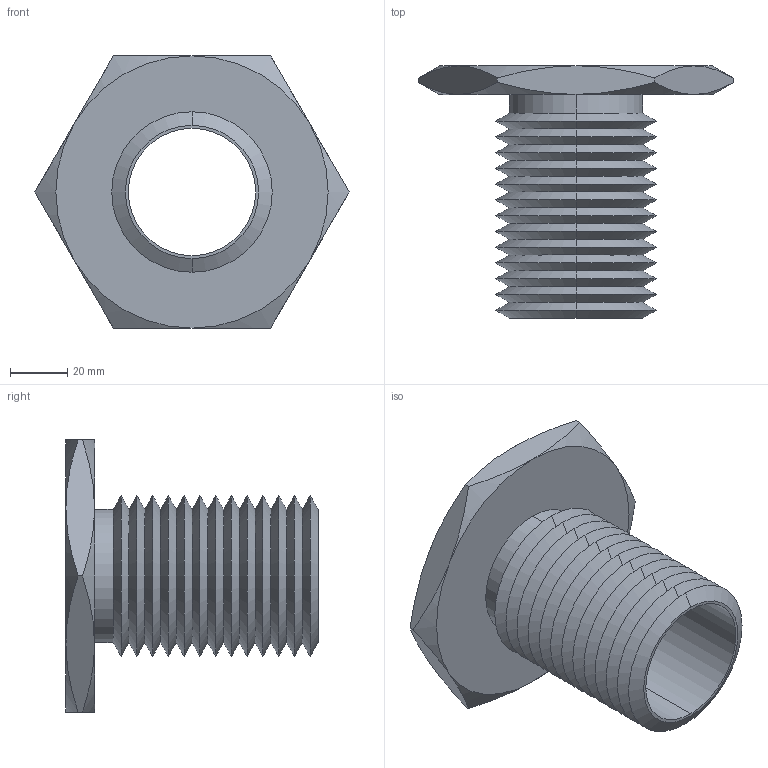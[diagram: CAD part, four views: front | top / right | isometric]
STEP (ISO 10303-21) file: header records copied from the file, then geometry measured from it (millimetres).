
FILE_DESCRIPTION (( 'STEP AP203' ), '1' );
FILE_NAME ('63302.W0056_1,75 UNC-5.step', '2013-12-08T11:24:59', ( 'User' ), ( '' ), 'SwSTEP 2.0', 'SolidWorks 2009', '' );
FILE_SCHEMA (( 'CONFIG_CONTROL_DESIGN' ));
Length unit declared in the file: millimetre
Products named in the file (1): 63302.W0056_1,75 UNC-5
Bounding box: 109.7 x 88 x 95 mm (x, y, z)
Volume: 96673 mm3; surface area: 50960.2 mm2
Topology: 1 solids, 1 shells, 79 faces, 162 edges, 86 vertices
Faces by surface type: cone 66, plane 9, cylinder 4
Entity records: 2271 total; most frequent: CARTESIAN_POINT 544, DIRECTION 372, ORIENTED_EDGE 324, EDGE_CURVE 162, AXIS2_PLACEMENT_3D 154, VERTEX_POINT 86, EDGE_LOOP 82, ADVANCED_FACE 79
